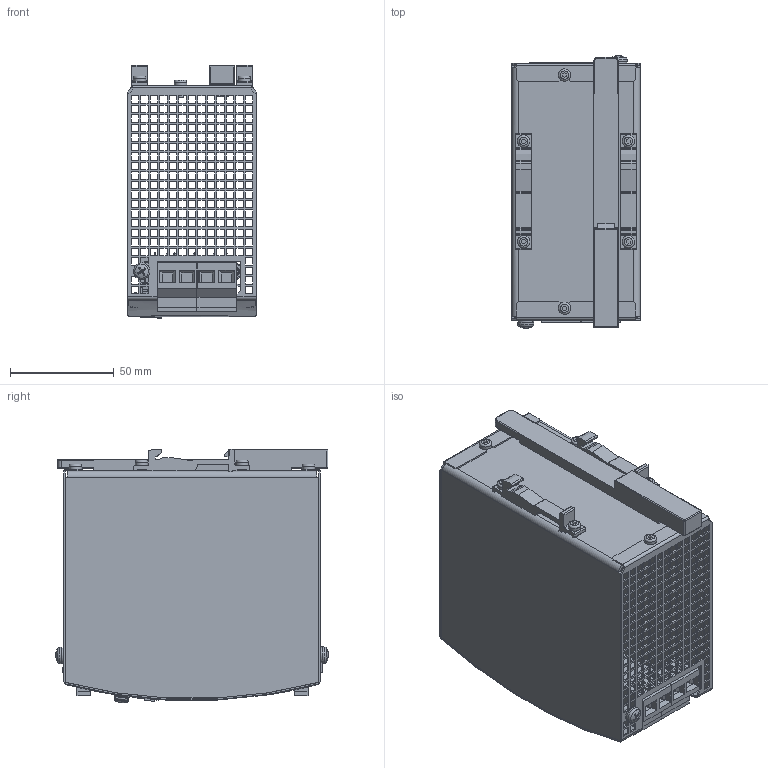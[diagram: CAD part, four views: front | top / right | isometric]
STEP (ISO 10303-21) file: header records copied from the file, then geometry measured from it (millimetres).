
FILE_DESCRIPTION((''),'2;1');
FILE_NAME('F:\EWG\380\Mockup\md3_ct10_241.stp','2009-02-26T11:10:36',('hoerl'),(''),'Autodesk Inventor 2009','Autodesk Inventor 2009','');
FILE_SCHEMA(('AUTOMOTIVE_DESIGN { 1 0 10303 214 1 1 1 1 }'));
Length unit declared in the file: millimetre
Products named in the file (13): 380.00; HOUSING BODY 380.00; HOUSING COVER 380.00; FRONTFOIL 380.00; JUMPER; JUMPER BRACKET; POTENTIOMETER COVER; T HOLDER; SLIDER; WASHER 4; SCREW 4x8; SCREW 3x6; TERMINAL 2P D3
Assembly tree (23 placements, depth 2):
  380.00
    HOUSING BODY 380.00
    HOUSING COVER 380.00
    FRONTFOIL 380.00
    JUMPER
    JUMPER BRACKET
    POTENTIOMETER COVER
    T HOLDER  x2
    SLIDER
    WASHER 4  x2
    SCREW 4x8  x2
    SCREW 3x6  x6
    TERMINAL 2P D3  x4
Bounding box: 62 x 131.73 x 122.52 mm (x, y, z)
Volume: 93935.5 mm3; surface area: 135864.4 mm2
Topology: 23 solids, 23 shells, 3874 faces, 10840 edges, 7141 vertices
Faces by surface type: plane 3067, bspline 430, cylinder 275, cone 56, torus 32, sphere 14
Full cylindrical faces by diameter (mm): 0.05 x8, 1 x2, 2.45 x5, 3 x6, 3.1 x4, 3.2 x1, 3.621 x2, 4 x2, 4.355 x1, 4.5 x3, 5.15 x8, 6 x6
Entity records: 230041 total; most frequent: CARTESIAN_POINT 144811, ORIENTED_EDGE 18666, DIRECTION 14550, EDGE_CURVE 9333, VECTOR 7672, LINE 7672, VERTEX_POINT 6208, EDGE_LOOP 4391
